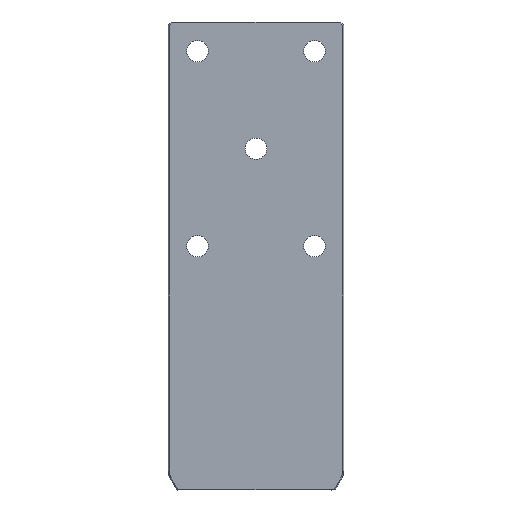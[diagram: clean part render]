
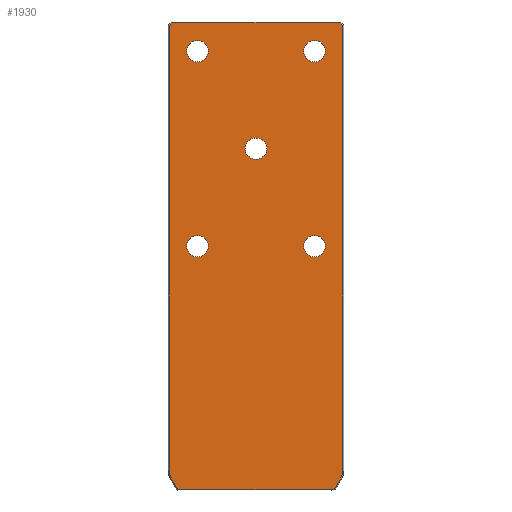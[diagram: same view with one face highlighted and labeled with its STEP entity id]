
A CAD part, front view. The second image highlights one B-rep face of the part: STEP entity #1930.
In plain terms, the highlighted planar face has unit normal (0, -1, 0).
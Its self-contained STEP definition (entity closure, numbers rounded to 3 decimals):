
#135=VERTEX_POINT(' ',#136);
#136=CARTESIAN_POINT('',(60.,-55.,-241.));
#137=VERTEX_POINT(' ',#138);
#138=CARTESIAN_POINT('',(60.,-55.,-219.));
#143=VERTEX_POINT(' ',#144);
#144=CARTESIAN_POINT('',(-60.,-55.,-41.));
#145=VERTEX_POINT(' ',#146);
#146=CARTESIAN_POINT('',(-60.,-55.,-19.));
#151=VERTEX_POINT(' ',#152);
#152=CARTESIAN_POINT('',(60.,-55.,-41.));
#153=VERTEX_POINT(' ',#154);
#154=CARTESIAN_POINT('',(60.,-55.,-19.));
#159=VERTEX_POINT(' ',#160);
#160=CARTESIAN_POINT('',(-60.,-55.,-241.));
#161=VERTEX_POINT(' ',#162);
#162=CARTESIAN_POINT('',(-60.,-55.,-219.));
#167=VERTEX_POINT(' ',#168);
#168=CARTESIAN_POINT('',(0.,-55.,-141.));
#169=VERTEX_POINT(' ',#170);
#170=CARTESIAN_POINT('',(0.,-55.,-119.));
#253=VERTEX_POINT(' ',#254);
#254=CARTESIAN_POINT('',(80.185,-55.,-480.));
#255=VERTEX_POINT(' ',#256);
#256=CARTESIAN_POINT('',(86.454,-55.,-469.141));
#257=VERTEX_POINT(' ',#258);
#258=CARTESIAN_POINT('',(89.,-55.,-459.641));
#259=VERTEX_POINT(' ',#260);
#260=CARTESIAN_POINT('',(89.,-55.,-280.));
#261=VERTEX_POINT(' ',#262);
#262=CARTESIAN_POINT('',(89.,-55.,-3.414));
#265=VERTEX_POINT(' ',#266);
#266=CARTESIAN_POINT('',(86.586,-55.,-1.));
#269=VERTEX_POINT(' ',#270);
#270=CARTESIAN_POINT('',(-86.586,-55.,-1.));
#273=VERTEX_POINT(' ',#274);
#274=CARTESIAN_POINT('',(-89.,-55.,-3.414));
#283=VERTEX_POINT(' ',#284);
#284=CARTESIAN_POINT('',(-80.185,-55.,-480.));
#285=VERTEX_POINT(' ',#286);
#286=CARTESIAN_POINT('',(-89.,-55.,-280.));
#287=VERTEX_POINT(' ',#288);
#288=CARTESIAN_POINT('',(-89.,-55.,-459.641));
#289=VERTEX_POINT(' ',#290);
#290=CARTESIAN_POINT('',(-86.454,-55.,-469.141));
#291=CIRCLE('',#292,11.);
#292=AXIS2_PLACEMENT_3D('',#293,#294,#295);
#293=CARTESIAN_POINT('',(60.,-55.,-230.));
#294=DIRECTION('',(0.,-1.,0.));
#295=DIRECTION('',(-1.,0.,0.));
#296=EDGE_CURVE(' ',#135,#137,#291,.T.);
#313=CIRCLE('',#314,11.);
#314=AXIS2_PLACEMENT_3D('',#315,#316,#317);
#315=CARTESIAN_POINT('',(60.,-55.,-230.));
#316=DIRECTION('',(0.,-1.,0.));
#317=DIRECTION('',(1.,0.,0.));
#318=EDGE_CURVE(' ',#137,#135,#313,.T.);
#325=CIRCLE('',#326,11.);
#326=AXIS2_PLACEMENT_3D('',#327,#328,#329);
#327=CARTESIAN_POINT('',(-60.,-55.,-30.));
#328=DIRECTION('',(0.,-1.,0.));
#329=DIRECTION('',(-1.,0.,0.));
#330=EDGE_CURVE(' ',#143,#145,#325,.T.);
#347=CIRCLE('',#348,11.);
#348=AXIS2_PLACEMENT_3D('',#349,#350,#351);
#349=CARTESIAN_POINT('',(-60.,-55.,-30.));
#350=DIRECTION('',(0.,-1.,0.));
#351=DIRECTION('',(1.,0.,0.));
#352=EDGE_CURVE(' ',#145,#143,#347,.T.);
#359=CIRCLE('',#360,11.);
#360=AXIS2_PLACEMENT_3D('',#361,#362,#363);
#361=CARTESIAN_POINT('',(60.,-55.,-30.));
#362=DIRECTION('',(0.,1.,0.));
#363=DIRECTION('',(-1.,0.,0.));
#364=EDGE_CURVE(' ',#151,#153,#359,.F.);
#381=CIRCLE('',#382,11.);
#382=AXIS2_PLACEMENT_3D('',#383,#384,#385);
#383=CARTESIAN_POINT('',(60.,-55.,-30.));
#384=DIRECTION('',(0.,1.,0.));
#385=DIRECTION('',(1.,0.,0.));
#386=EDGE_CURVE(' ',#153,#151,#381,.F.);
#393=CIRCLE('',#394,11.);
#394=AXIS2_PLACEMENT_3D('',#395,#396,#397);
#395=CARTESIAN_POINT('',(-60.,-55.,-230.));
#396=DIRECTION('',(0.,1.,0.));
#397=DIRECTION('',(-1.,0.,0.));
#398=EDGE_CURVE(' ',#159,#161,#393,.F.);
#415=CIRCLE('',#416,11.);
#416=AXIS2_PLACEMENT_3D('',#417,#418,#419);
#417=CARTESIAN_POINT('',(-60.,-55.,-230.));
#418=DIRECTION('',(0.,1.,0.));
#419=DIRECTION('',(1.,0.,0.));
#420=EDGE_CURVE(' ',#161,#159,#415,.F.);
#427=CIRCLE('',#428,11.);
#428=AXIS2_PLACEMENT_3D('',#429,#430,#431);
#429=CARTESIAN_POINT('',(0.,-55.,-130.));
#430=DIRECTION('',(0.,1.,0.));
#431=DIRECTION('',(-1.,0.,0.));
#432=EDGE_CURVE(' ',#167,#169,#427,.F.);
#449=CIRCLE('',#450,11.);
#450=AXIS2_PLACEMENT_3D('',#451,#452,#453);
#451=CARTESIAN_POINT('',(0.,-55.,-130.));
#452=DIRECTION('',(0.,1.,0.));
#453=DIRECTION('',(1.,0.,0.));
#454=EDGE_CURVE(' ',#169,#167,#449,.F.);
#846=LINE('',#847,#848);
#847=CARTESIAN_POINT('',(86.454,-55.,-469.141));
#848=VECTOR('',#849,1.);
#849=DIRECTION('',(-0.5,0.,-0.866));
#850=EDGE_CURVE(' ',#255,#253,#846,.T.);
#856=CIRCLE('',#857,19.);
#857=AXIS2_PLACEMENT_3D('',#858,#859,#860);
#858=CARTESIAN_POINT('',(70.,-55.,-459.641));
#859=DIRECTION('',(0.,1.,0.));
#860=DIRECTION('',(-0.966,0.,0.259));
#861=EDGE_CURVE(' ',#257,#255,#856,.T.);
#867=LINE('',#868,#869);
#868=CARTESIAN_POINT('',(89.,-55.,-280.));
#869=VECTOR('',#870,1.);
#870=DIRECTION('',(0.,0.,-1.));
#871=EDGE_CURVE(' ',#259,#257,#867,.T.);
#877=LINE('',#878,#879);
#878=CARTESIAN_POINT('',(89.,-55.,2.657));
#879=VECTOR('',#880,1.);
#880=DIRECTION('',(0.,0.,-1.));
#881=EDGE_CURVE(' ',#261,#259,#877,.T.);
#897=LINE('',#898,#899);
#898=CARTESIAN_POINT('',(82.293,-55.,3.293));
#899=VECTOR('',#900,1.);
#900=DIRECTION('',(0.707,0.,-0.707));
#901=EDGE_CURVE(' ',#265,#261,#897,.T.);
#917=LINE('',#918,#919);
#918=CARTESIAN_POINT('',(-92.657,-55.,-1.));
#919=VECTOR('',#920,1.);
#920=DIRECTION('',(1.,0.,0.));
#921=EDGE_CURVE(' ',#269,#265,#917,.T.);
#937=LINE('',#938,#939);
#938=CARTESIAN_POINT('',(-93.293,-55.,-7.707));
#939=VECTOR('',#940,1.);
#940=DIRECTION('',(0.707,0.,0.707));
#941=EDGE_CURVE(' ',#273,#269,#937,.T.);
#988=LINE('',#989,#990);
#989=CARTESIAN_POINT('',(-90.12,-55.,-480.));
#990=VECTOR('',#991,1.);
#991=DIRECTION('',(1.,0.,0.));
#992=EDGE_CURVE(' ',#253,#283,#988,.F.);
#993=LINE('',#994,#995);
#994=CARTESIAN_POINT('',(-89.,-55.,-280.));
#995=VECTOR('',#996,1.);
#996=DIRECTION('',(0.,0.,1.));
#997=EDGE_CURVE(' ',#285,#273,#993,.T.);
#998=LINE('',#999,#1000);
#999=CARTESIAN_POINT('',(-89.,-55.,-459.641));
#1000=VECTOR('',#1001,1.);
#1001=DIRECTION('',(0.,0.,1.));
#1002=EDGE_CURVE(' ',#287,#285,#998,.T.);
#1003=CIRCLE('',#1004,19.);
#1004=AXIS2_PLACEMENT_3D('',#1005,#1006,#1007);
#1005=CARTESIAN_POINT('',(-70.,-55.,-459.641));
#1006=DIRECTION('',(0.,1.,0.));
#1007=DIRECTION('',(0.966,0.,0.259));
#1008=EDGE_CURVE(' ',#289,#287,#1003,.T.);
#1009=LINE('',#1010,#1011);
#1010=CARTESIAN_POINT('',(-77.645,-55.,-484.399));
#1011=VECTOR('',#1012,1.);
#1012=DIRECTION('',(-0.5,0.,0.866));
#1013=EDGE_CURVE(' ',#283,#289,#1009,.T.);
#1891=ORIENTED_EDGE('',*,*,#997,.F.);
#1892=ORIENTED_EDGE('',*,*,#1002,.F.);
#1893=ORIENTED_EDGE('',*,*,#1008,.F.);
#1894=ORIENTED_EDGE('',*,*,#1013,.F.);
#1895=ORIENTED_EDGE('',*,*,#992,.F.);
#1896=ORIENTED_EDGE('',*,*,#850,.F.);
#1897=ORIENTED_EDGE('',*,*,#861,.F.);
#1898=ORIENTED_EDGE('',*,*,#871,.F.);
#1899=ORIENTED_EDGE('',*,*,#881,.F.);
#1900=ORIENTED_EDGE('',*,*,#901,.F.);
#1901=ORIENTED_EDGE('',*,*,#921,.F.);
#1902=ORIENTED_EDGE('',*,*,#941,.F.);
#1903=EDGE_LOOP('',(#1891,#1892,#1893,#1894,#1895,#1896,#1897,#1898,#1899,#1900,#1901,#1902));
#1904=FACE_OUTER_BOUND('',#1903,.T.);
#1905=ORIENTED_EDGE('',*,*,#454,.F.);
#1906=ORIENTED_EDGE('',*,*,#432,.F.);
#1907=EDGE_LOOP('',(#1905,#1906));
#1908=FACE_BOUND('',#1907,.T.);
#1909=ORIENTED_EDGE('',*,*,#420,.F.);
#1910=ORIENTED_EDGE('',*,*,#398,.F.);
#1911=EDGE_LOOP('',(#1909,#1910));
#1912=FACE_BOUND('',#1911,.T.);
#1913=ORIENTED_EDGE('',*,*,#386,.F.);
#1914=ORIENTED_EDGE('',*,*,#364,.F.);
#1915=EDGE_LOOP('',(#1913,#1914));
#1916=FACE_BOUND('',#1915,.T.);
#1917=ORIENTED_EDGE('',*,*,#352,.F.);
#1918=ORIENTED_EDGE('',*,*,#330,.F.);
#1919=EDGE_LOOP('',(#1917,#1918));
#1920=FACE_BOUND('',#1919,.T.);
#1921=ORIENTED_EDGE('',*,*,#318,.F.);
#1922=ORIENTED_EDGE('',*,*,#296,.F.);
#1923=EDGE_LOOP('',(#1921,#1922));
#1924=FACE_BOUND('',#1923,.T.);
#1925=PLANE('',#1926);
#1926=AXIS2_PLACEMENT_3D('',#1927,#1928,#1929);
#1927=CARTESIAN_POINT('',(0.,-55.,0.));
#1928=DIRECTION('',(0.,-1.,0.));
#1929=DIRECTION('',(0.,0.,-1.));
#1930=ADVANCED_FACE('',(#1904,#1908,#1912,#1916,#1920,#1924),#1925,.T.);
